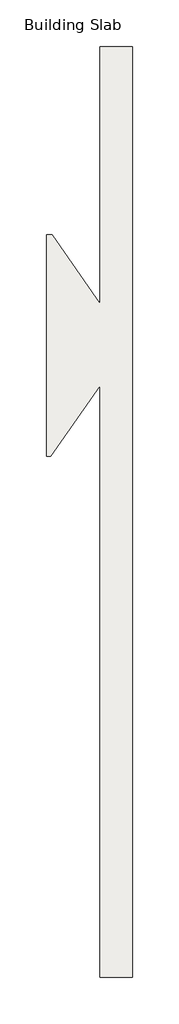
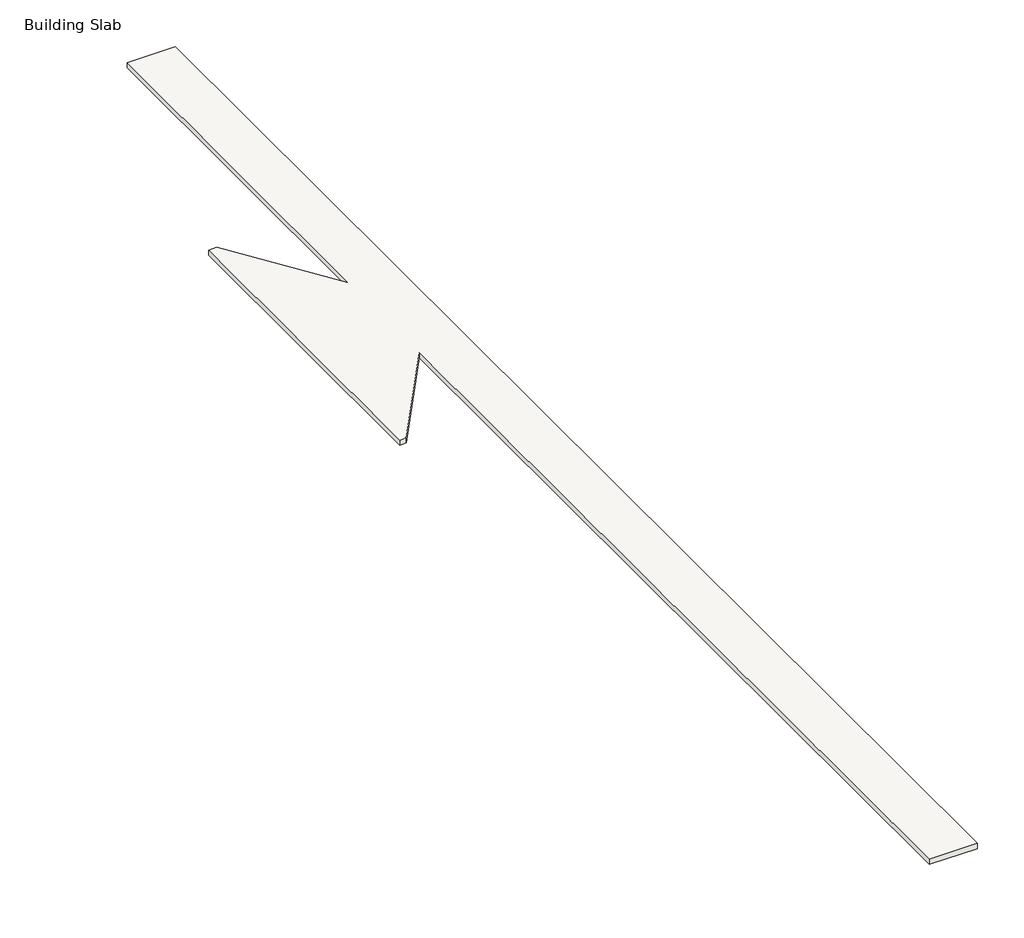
# One storey, incomplete: 1 slab.
"""IFC4 building model written with IfcOpenShell, lengths in millimetres."""

from ifc_helpers import new_model, si_unit, frame, origin, place, context, project, spatial, polyline, outline, extrude, element, save

model = new_model("IFC4")

# Units and contexts
model_context = context("Model", 3, world=origin())
ifc_project = project(units=[si_unit("LENGTHUNIT", "METRE", prefix="MILLI")], contexts=[model_context])

# Site, building, storey
site = spatial("IfcSite", under=ifc_project)
building = spatial("IfcBuilding", under=site)
storey = spatial("IfcBuildingStorey", under=building, Name="Building Slab", Elevation=0.0)

# Slab
placement = place(None, origin())
element("IfcSlab", 1, ObjectType="Sidewalk", at=placement, inside=storey, context=model_context, shape_type="SweptSolid", body=[
    extrude(outline(polyline([(-21299.2665725, -12565.8721449), (-22213.6665725, -12565.8721449), (-22213.6665725, 4156.7944441), (-23612.2753548, 2159.3740993), (-23737.6665725, 2159.3740993), (-23737.6665725, 8428.4409958), (-23579.1623001, 8428.4409958), (-22213.6665725, 6478.3109941), (-22213.6665725, 13740.4395628), (-21299.2665725, 13740.4395628), (-21299.2665725, -12565.8721449)])), frame((0.0, 0.0, -825.3984), z_axis=(0.0, 0.0, 1.0), x_axis=(1.0, 0.0, 0.0)), (0.0, 0.0, 1.0), 101.4984),
])

save(model, "model.ifc")
